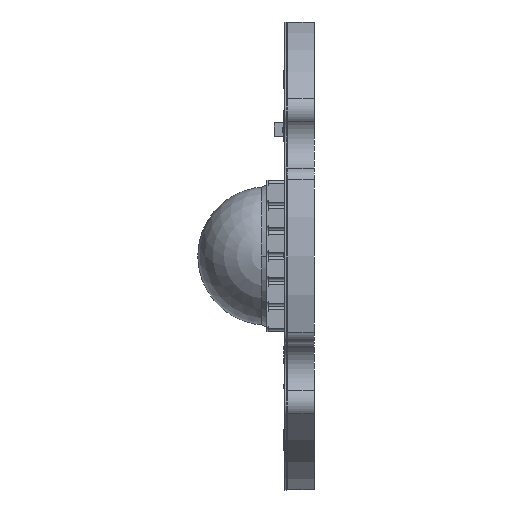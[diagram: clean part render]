
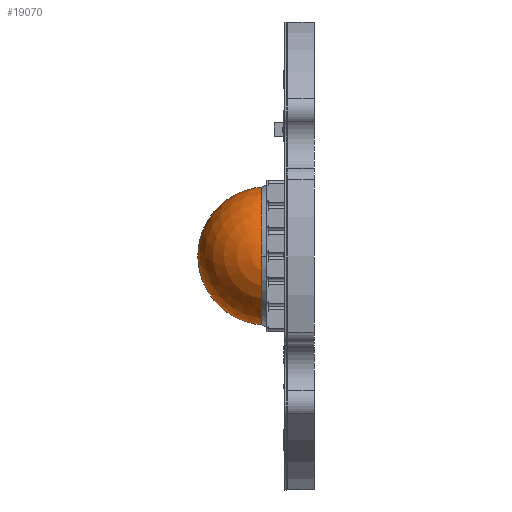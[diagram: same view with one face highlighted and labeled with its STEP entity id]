
A CAD part, left-side view. The second image highlights one B-rep face of the part: STEP entity #19070.
In plain terms, the highlighted spherical face has radius 4.1 mm.
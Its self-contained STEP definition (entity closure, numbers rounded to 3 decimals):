
#10898 = EDGE_CURVE ( 'NONE', #48918, #48874, #29816, .T. ) ;
#10958 = EDGE_CURVE ( 'NONE', #48912, #48918, #29847, .T. ) ;
#10982 = EDGE_CURVE ( 'NONE', #48912, #48874, #29855, .T. ) ;
#19070 = ADVANCED_FACE ( 'NONE', ( #27785 ), #27816, .T. ) ;
#27785 = FACE_OUTER_BOUND ( 'NONE', #52419, .T. ) ;
#27816 = SPHERICAL_SURFACE ( 'NONE', #28575, 4.1 ) ;
#27829 = CARTESIAN_POINT ( 'NONE',  ( 0., 2.807, 0. ) ) ;
#27830 = DIRECTION ( 'NONE',  ( 1., 0., 0. ) ) ;
#27831 = DIRECTION ( 'NONE',  ( 0., 0., -1. ) ) ;
#28575 = AXIS2_PLACEMENT_3D ( 'NONE', #27829, #27830, #27831 ) ;
#29816 = CIRCLE ( 'NONE', #29819, 4.1 ) ;
#29819 = AXIS2_PLACEMENT_3D ( 'NONE', #70495, #70496, #70497 ) ;
#29847 = CIRCLE ( 'NONE', #29849, 4.1 ) ;
#29849 = AXIS2_PLACEMENT_3D ( 'NONE', #70654, #70655, #70656 ) ;
#29855 = CIRCLE ( 'NONE', #29860, 4.1 ) ;
#29860 = AXIS2_PLACEMENT_3D ( 'NONE', #70736, #70737, #70738 ) ;
#48874 = VERTEX_POINT ( 'NONE', #57406 ) ;
#48912 = VERTEX_POINT ( 'NONE', #57422 ) ;
#48918 = VERTEX_POINT ( 'NONE', #57423 ) ;
#51416 = ORIENTED_EDGE ( 'NONE', *, *, #10958, .F. ) ;
#51418 = ORIENTED_EDGE ( 'NONE', *, *, #10982, .T. ) ;
#51420 = ORIENTED_EDGE ( 'NONE', *, *, #10898, .F. ) ;
#52419 = EDGE_LOOP ( 'NONE', ( #51416, #51418, #51420 ) ) ;
#57406 = CARTESIAN_POINT ( 'NONE',  ( 0., 2.807, -4.1 ) ) ;
#57422 = CARTESIAN_POINT ( 'NONE',  ( 0., 6.907, 0. ) ) ;
#57423 = CARTESIAN_POINT ( 'NONE',  ( 0., 2.807, 4.1 ) ) ;
#70495 = CARTESIAN_POINT ( 'NONE',  ( 0., 2.807, 0. ) ) ;
#70496 = DIRECTION ( 'NONE',  ( 0., -1., 0. ) ) ;
#70497 = DIRECTION ( 'NONE',  ( -1., 0., 0. ) ) ;
#70654 = CARTESIAN_POINT ( 'NONE',  ( 0., 2.807, 0. ) ) ;
#70655 = DIRECTION ( 'NONE',  ( 1., 0., 0. ) ) ;
#70656 = DIRECTION ( 'NONE',  ( 0., 0., -1. ) ) ;
#70736 = CARTESIAN_POINT ( 'NONE',  ( 0., 2.807, 0. ) ) ;
#70737 = DIRECTION ( 'NONE',  ( -1., 0., 0. ) ) ;
#70738 = DIRECTION ( 'NONE',  ( 0., 0., 1. ) ) ;
